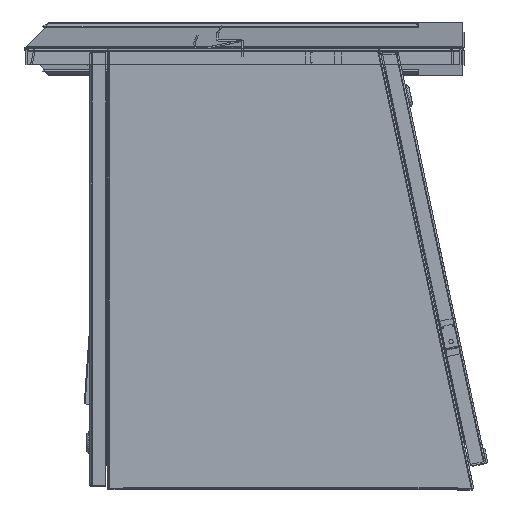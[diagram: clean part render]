
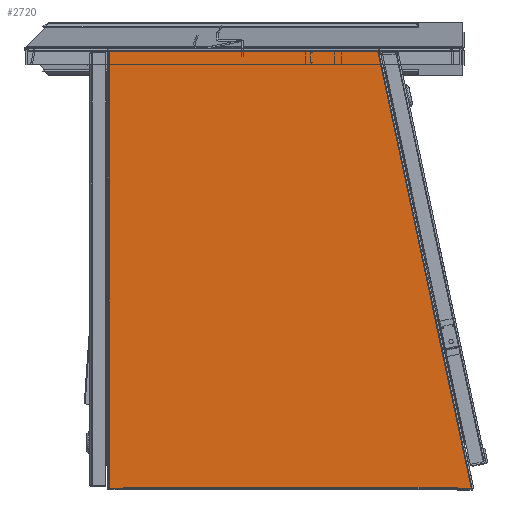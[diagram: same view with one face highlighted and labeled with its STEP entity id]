
A CAD part, left-side view. The second image highlights one B-rep face of the part: STEP entity #2720.
In plain terms, the highlighted planar face has unit normal (-1, 0, 0) as drawn and (0, 0, -1) by its records, which use the part's own axes.
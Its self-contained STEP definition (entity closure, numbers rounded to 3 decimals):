
#2720 = ADVANCED_FACE( '', ( #3931 ), #3932, .T. );
#3931 = FACE_OUTER_BOUND( '', #6309, .T. );
#3932 = PLANE( '', #6310 );
#6309 = EDGE_LOOP( '', ( #10782, #10783, #10784, #10785, #10786, #10787, #10788, #10789, #10790, #10791 ) );
#6310 = AXIS2_PLACEMENT_3D( '', #10792, #10793, #10794 );
#10782 = ORIENTED_EDGE( '', *, *, #16881, .T. );
#10783 = ORIENTED_EDGE( '', *, *, #16778, .F. );
#10784 = ORIENTED_EDGE( '', *, *, #16766, .T. );
#10785 = ORIENTED_EDGE( '', *, *, #16882, .T. );
#10786 = ORIENTED_EDGE( '', *, *, #16880, .F. );
#10787 = ORIENTED_EDGE( '', *, *, #16883, .F. );
#10788 = ORIENTED_EDGE( '', *, *, #16884, .F. );
#10789 = ORIENTED_EDGE( '', *, *, #16856, .F. );
#10790 = ORIENTED_EDGE( '', *, *, #16768, .F. );
#10791 = ORIENTED_EDGE( '', *, *, #16885, .F. );
#10792 = CARTESIAN_POINT( '', ( -211.138, -252.171, 0. ) );
#10793 = DIRECTION( '', ( 0., 0., -1. ) );
#10794 = DIRECTION( '', ( 1., 0., 0. ) );
#16766 = EDGE_CURVE( '', #19167, #19171, #19173, .T. );
#16768 = EDGE_CURVE( '', #19175, #19177, #19178, .T. );
#16778 = EDGE_CURVE( '', #19167, #19190, #19196, .T. );
#16856 = EDGE_CURVE( '', #19177, #19323, #19326, .T. );
#16880 = EDGE_CURVE( '', #19358, #19354, #19360, .T. );
#16881 = EDGE_CURVE( '', #19361, #19190, #19362, .T. );
#16882 = EDGE_CURVE( '', #19171, #19354, #19363, .T. );
#16883 = EDGE_CURVE( '', #19364, #19358, #19365, .T. );
#16884 = EDGE_CURVE( '', #19323, #19364, #19366, .T. );
#16885 = EDGE_CURVE( '', #19361, #19175, #19367, .T. );
#19167 = VERTEX_POINT( '', #23163 );
#19171 = VERTEX_POINT( '', #23169 );
#19173 = LINE( '', #23172, #23173 );
#19175 = VERTEX_POINT( '', #23175 );
#19177 = VERTEX_POINT( '', #23178 );
#19178 = LINE( '', #23179, #23180 );
#19190 = VERTEX_POINT( '', #23196 );
#19196 = LINE( '', #23203, #23204 );
#19323 = VERTEX_POINT( '', #23451 );
#19326 = LINE( '', #23464, #23465 );
#19354 = VERTEX_POINT( '', #23517 );
#19358 = VERTEX_POINT( '', #23523 );
#19360 = LINE( '', #23526, #23527 );
#19361 = VERTEX_POINT( '', #23528 );
#19362 = LINE( '', #23529, #23530 );
#19363 = LINE( '', #23531, #23532 );
#19364 = VERTEX_POINT( '', #23533 );
#19365 = LINE( '', #23534, #23535 );
#19366 = LINE( '', #23536, #23537 );
#19367 = LINE( '', #23538, #23539 );
#23163 = CARTESIAN_POINT( '', ( -191.904, -251.257, 0. ) );
#23169 = CARTESIAN_POINT( '', ( -192.666, -251.257, 0. ) );
#23172 = CARTESIAN_POINT( '', ( -192.666, -251.257, 0. ) );
#23173 = VECTOR( '', #28919, 1000. );
#23175 = CARTESIAN_POINT( '', ( 192.728, -252.171, 0. ) );
#23178 = CARTESIAN_POINT( '', ( 208.394, -252.171, 0. ) );
#23179 = CARTESIAN_POINT( '', ( -211.138, -252.171, 0. ) );
#23180 = VECTOR( '', #28921, 1000. );
#23196 = CARTESIAN_POINT( '', ( 191.966, -251.257, 0. ) );
#23203 = CARTESIAN_POINT( '', ( -191.904, -251.257, 0. ) );
#23204 = VECTOR( '', #28939, 1000. );
#23451 = CARTESIAN_POINT( '', ( 208.394, 252.171, 0. ) );
#23464 = CARTESIAN_POINT( '', ( 208.394, -252.171, 0. ) );
#23465 = VECTOR( '', #29010, 1000. );
#23517 = CARTESIAN_POINT( '', ( -192.666, -252.171, 0. ) );
#23523 = CARTESIAN_POINT( '', ( -208.332, -252.171, 0. ) );
#23526 = CARTESIAN_POINT( '', ( -211.138, -252.171, 0. ) );
#23527 = VECTOR( '', #29033, 1000. );
#23528 = CARTESIAN_POINT( '', ( 192.728, -251.257, 0. ) );
#23529 = CARTESIAN_POINT( '', ( -192.666, -251.257, 0. ) );
#23530 = VECTOR( '', #29034, 1000. );
#23531 = CARTESIAN_POINT( '', ( -192.666, -252.171, 0. ) );
#23532 = VECTOR( '', #29035, 1000. );
#23533 = CARTESIAN_POINT( '', ( -100.382, 252.171, 0. ) );
#23534 = CARTESIAN_POINT( '', ( -100.382, 252.171, 0. ) );
#23535 = VECTOR( '', #29036, 1000. );
#23536 = CARTESIAN_POINT( '', ( 211.138, 252.171, 0. ) );
#23537 = VECTOR( '', #29037, 1000. );
#23538 = CARTESIAN_POINT( '', ( 192.728, -252.171, 0. ) );
#23539 = VECTOR( '', #29038, 1000. );
#28919 = DIRECTION( '', ( -1., 0., 0. ) );
#28921 = DIRECTION( '', ( 1., 0., 0. ) );
#28939 = DIRECTION( '', ( 1., 0., 0. ) );
#29010 = DIRECTION( '', ( 0., 1., 0. ) );
#29033 = DIRECTION( '', ( 1., 0., 0. ) );
#29034 = DIRECTION( '', ( -1., 0., 0. ) );
#29035 = DIRECTION( '', ( 0., -1., 0. ) );
#29036 = DIRECTION( '', ( -0.209, -0.978, 0. ) );
#29037 = DIRECTION( '', ( -1., 0., 0. ) );
#29038 = DIRECTION( '', ( 0., -1., 0. ) );
